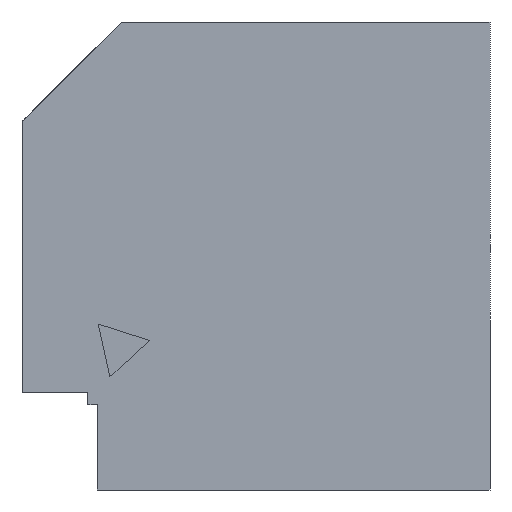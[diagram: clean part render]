
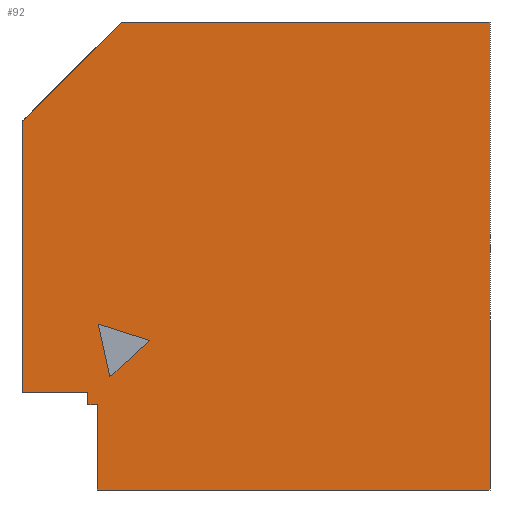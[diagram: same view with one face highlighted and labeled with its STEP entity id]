
A CAD part, left-side view. The second image highlights one B-rep face of the part: STEP entity #92.
In plain terms, the highlighted planar face has unit normal (-1, 0, 0).
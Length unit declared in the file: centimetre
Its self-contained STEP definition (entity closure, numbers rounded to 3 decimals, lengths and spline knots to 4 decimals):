
#6 = VERTEX_POINT ( 'NONE', #955 ) ;
#39 = CARTESIAN_POINT ( 'NONE',  ( 0., 0., 1000. ) ) ;
#63 = CARTESIAN_POINT ( 'NONE',  ( 0., 859.4077, 208.3287 ) ) ;
#78 = ORIENTED_EDGE ( 'NONE', *, *, #403, .T. ) ;
#92 = ADVANCED_FACE ( 'NONE', ( #1127, #346 ), #591, .F. ) ;
#107 = VECTOR ( 'NONE', #431, 100. ) ;
#115 = VERTEX_POINT ( 'NONE', #1182 ) ;
#124 = DIRECTION ( 'NONE',  ( 0., 0., -1. ) ) ;
#127 = CARTESIAN_POINT ( 'NONE',  ( 0., 1000., 1000. ) ) ;
#130 = DIRECTION ( 'NONE',  ( 0., -0.214, -0.977 ) ) ;
#143 = LINE ( 'NONE', #39, #342 ) ;
#147 = DIRECTION ( 'NONE',  ( 0., -1., 0. ) ) ;
#148 = EDGE_CURVE ( 'NONE', #966, #535, #734, .T. ) ;
#162 = LINE ( 'NONE', #537, #752 ) ;
#182 = DIRECTION ( 'NONE',  ( 0., 0., -1. ) ) ;
#183 = LINE ( 'NONE', #449, #530 ) ;
#187 = VECTOR ( 'NONE', #147, 100. ) ;
#195 = CARTESIAN_POINT ( 'NONE',  ( 0., 837.0219, 354.5252 ) ) ;
#200 = ORIENTED_EDGE ( 'NONE', *, *, #148, .F. ) ;
#214 = EDGE_CURVE ( 'NONE', #732, #6, #666, .T. ) ;
#250 = EDGE_CURVE ( 'NONE', #645, #811, #1067, .T. ) ;
#255 = DIRECTION ( 'NONE',  ( 0., -1., 0. ) ) ;
#273 = EDGE_LOOP ( 'NONE', ( #692, #1047, #1156, #820, #536, #598, #864, #1030, #78 ) ) ;
#275 = DIRECTION ( 'NONE',  ( 0., -1., 0. ) ) ;
#292 = VECTOR ( 'NONE', #325, 100. ) ;
#325 = DIRECTION ( 'NONE',  ( 0., -1., 0. ) ) ;
#342 = VECTOR ( 'NONE', #124, 100. ) ;
#346 = FACE_OUTER_BOUND ( 'NONE', #273, .T. ) ;
#367 = DIRECTION ( 'NONE',  ( 0., 0., -1. ) ) ;
#395 = VECTOR ( 'NONE', #182, 100. ) ;
#403 = EDGE_CURVE ( 'NONE', #811, #493, #1077, .T. ) ;
#404 = CARTESIAN_POINT ( 'NONE',  ( 0., 0., 1000. ) ) ;
#427 = CARTESIAN_POINT ( 'NONE',  ( 0., 838.8429, 182.5365 ) ) ;
#431 = DIRECTION ( 'NONE',  ( 0., 0.707, -0.707 ) ) ;
#434 = VECTOR ( 'NONE', #484, 100. ) ;
#439 = EDGE_LOOP ( 'NONE', ( #1079, #1184, #200 ) ) ;
#449 = CARTESIAN_POINT ( 'NONE',  ( 0., 1000., 1000. ) ) ;
#484 = DIRECTION ( 'NONE',  ( 0., 0., -1. ) ) ;
#493 = VERTEX_POINT ( 'NONE', #969 ) ;
#515 = EDGE_CURVE ( 'NONE', #493, #732, #766, .T. ) ;
#530 = VECTOR ( 'NONE', #275, 100. ) ;
#535 = VERTEX_POINT ( 'NONE', #957 ) ;
#536 = ORIENTED_EDGE ( 'NONE', *, *, #912, .T. ) ;
#537 = CARTESIAN_POINT ( 'NONE',  ( 0., 812.3087, 241.6195 ) ) ;
#541 = EDGE_CURVE ( 'NONE', #776, #656, #689, .T. ) ;
#583 = CARTESIAN_POINT ( 'NONE',  ( 0., 1000., 787.553 ) ) ;
#591 = PLANE ( 'NONE',  #1129 ) ;
#598 = ORIENTED_EDGE ( 'NONE', *, *, #922, .F. ) ;
#627 = CARTESIAN_POINT ( 'NONE',  ( 0., 787.553, 1000. ) ) ;
#635 = CARTESIAN_POINT ( 'NONE',  ( 0., 787.553, 1000. ) ) ;
#645 = VERTEX_POINT ( 'NONE', #627 ) ;
#656 = VERTEX_POINT ( 'NONE', #731 ) ;
#666 = LINE ( 'NONE', #933, #434 ) ;
#675 = CARTESIAN_POINT ( 'NONE',  ( 0., 726.8861, 319.4746 ) ) ;
#679 = VECTOR ( 'NONE', #255, 100. ) ;
#682 = DIRECTION ( 'NONE',  ( 1., 0., 0. ) ) ;
#689 = LINE ( 'NONE', #1069, #395 ) ;
#692 = ORIENTED_EDGE ( 'NONE', *, *, #515, .T. ) ;
#731 = CARTESIAN_POINT ( 'NONE',  ( 0., 838.8429, 0. ) ) ;
#732 = VERTEX_POINT ( 'NONE', #63 ) ;
#734 = LINE ( 'NONE', #195, #1110 ) ;
#747 = DIRECTION ( 'NONE',  ( 0., 0.953, 0.303 ) ) ;
#752 = VECTOR ( 'NONE', #796, 100. ) ;
#766 = LINE ( 'NONE', #1063, #679 ) ;
#769 = LINE ( 'NONE', #427, #292 ) ;
#776 = VERTEX_POINT ( 'NONE', #1099 ) ;
#782 = CARTESIAN_POINT ( 'NONE',  ( 0., 1000., 0. ) ) ;
#784 = DIRECTION ( 'NONE',  ( 0., 0., -1. ) ) ;
#796 = DIRECTION ( 'NONE',  ( 0., -0.739, 0.674 ) ) ;
#809 = VECTOR ( 'NONE', #367, 100. ) ;
#811 = VERTEX_POINT ( 'NONE', #583 ) ;
#820 = ORIENTED_EDGE ( 'NONE', *, *, #541, .T. ) ;
#864 = ORIENTED_EDGE ( 'NONE', *, *, #1039, .F. ) ;
#877 = VECTOR ( 'NONE', #747, 100. ) ;
#912 = EDGE_CURVE ( 'NONE', #656, #1090, #971, .T. ) ;
#918 = VERTEX_POINT ( 'NONE', #404 ) ;
#922 = EDGE_CURVE ( 'NONE', #918, #1090, #143, .T. ) ;
#933 = CARTESIAN_POINT ( 'NONE',  ( 0., 859.4077, 0. ) ) ;
#947 = EDGE_CURVE ( 'NONE', #6, #776, #769, .T. ) ;
#952 = LINE ( 'NONE', #675, #877 ) ;
#955 = CARTESIAN_POINT ( 'NONE',  ( 0., 859.4077, 182.5365 ) ) ;
#957 = CARTESIAN_POINT ( 'NONE',  ( 0., 812.3087, 241.6195 ) ) ;
#958 = CARTESIAN_POINT ( 'NONE',  ( 0., 837.0219, 354.5252 ) ) ;
#966 = VERTEX_POINT ( 'NONE', #958 ) ;
#969 = CARTESIAN_POINT ( 'NONE',  ( 0., 1000., 208.3287 ) ) ;
#971 = LINE ( 'NONE', #782, #187 ) ;
#994 = CARTESIAN_POINT ( 'NONE',  ( 0., 1000., 1000. ) ) ;
#1030 = ORIENTED_EDGE ( 'NONE', *, *, #250, .T. ) ;
#1039 = EDGE_CURVE ( 'NONE', #645, #918, #183, .T. ) ;
#1047 = ORIENTED_EDGE ( 'NONE', *, *, #214, .T. ) ;
#1063 = CARTESIAN_POINT ( 'NONE',  ( 0., 859.4077, 208.3287 ) ) ;
#1067 = LINE ( 'NONE', #635, #107 ) ;
#1069 = CARTESIAN_POINT ( 'NONE',  ( 0., 838.8429, 0. ) ) ;
#1077 = LINE ( 'NONE', #994, #809 ) ;
#1079 = ORIENTED_EDGE ( 'NONE', *, *, #1152, .F. ) ;
#1080 = CARTESIAN_POINT ( 'NONE',  ( 0., 0., 0. ) ) ;
#1082 = EDGE_CURVE ( 'NONE', #535, #115, #162, .T. ) ;
#1090 = VERTEX_POINT ( 'NONE', #1080 ) ;
#1099 = CARTESIAN_POINT ( 'NONE',  ( 0., 838.8429, 182.5365 ) ) ;
#1110 = VECTOR ( 'NONE', #130, 100. ) ;
#1127 = FACE_BOUND ( 'NONE', #439, .T. ) ;
#1129 = AXIS2_PLACEMENT_3D ( 'NONE', #127, #682, #784 ) ;
#1152 = EDGE_CURVE ( 'NONE', #115, #966, #952, .T. ) ;
#1156 = ORIENTED_EDGE ( 'NONE', *, *, #947, .T. ) ;
#1182 = CARTESIAN_POINT ( 'NONE',  ( 0., 726.8861, 319.4746 ) ) ;
#1184 = ORIENTED_EDGE ( 'NONE', *, *, #1082, .F. ) ;
